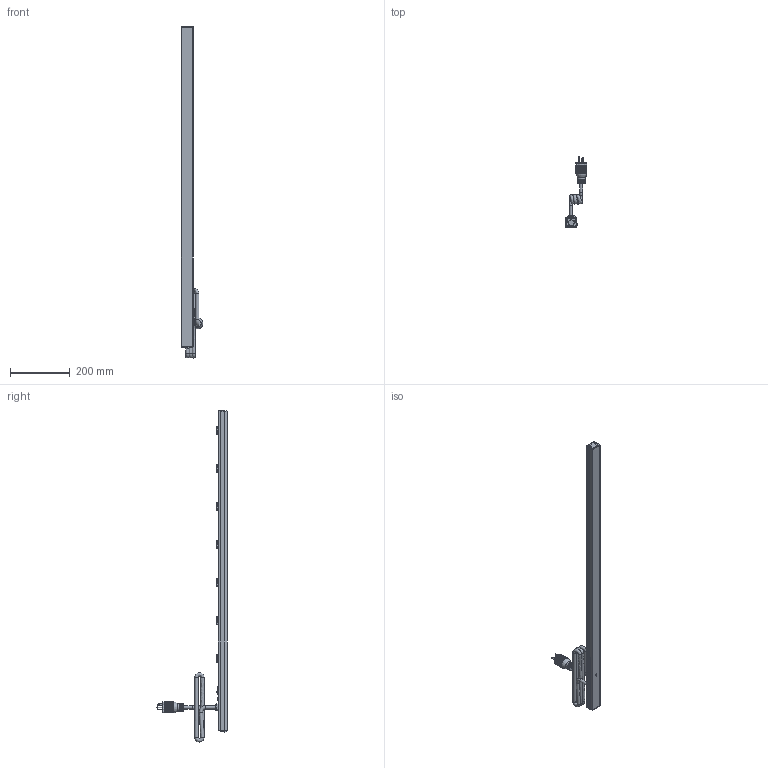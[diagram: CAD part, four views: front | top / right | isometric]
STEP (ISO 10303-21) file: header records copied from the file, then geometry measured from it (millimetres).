
FILE_DESCRIPTION((''),'2;1');
FILE_NAME('E:\Dutton\Manufacturing\drawings\Updated 2009\Vertical Rack Mount Strips\1589 Series\STEP''s\1589H42F1.stp','2010-01-21T08:20:40',('tfoster'),(''),'Autodesk Inventor 2010','Autodesk Inventor 2010','');
FILE_SCHEMA(('AUTOMOTIVE_DESIGN { 1 0 10303 214 1 1 1 1 }'));
Products named in the file (14): 1589H42F1; 42' - 7 Outlet top; 42' bottom; End Cap; End Cap w breaker; Reset Switch; #6 - 0.375 Type A screw; 20 amp Cored; toothwasher; round head 1-way 8-32 x 0.5 screw; Power Switch Assembly; Power Switch; Power Switch pt; 20 Amp Receptacle
Assembly tree (20 placements, depth 3):
  1589H42F1
    End Cap
    End Cap w breaker
    Reset Switch
    #6 - 0.375 Type A screw  x4
    20 amp Cored
    toothwasher
    round head 1-way 8-32 x 0.5 screw
    Power Switch Assembly
      Power Switch
      Power Switch pt
    20 Amp Receptacle  x7
  42' - 7 Outlet top
  42' bottom
Bounding box: 72.44 x 234.82 x 1111.14 mm (x, y, z)
Volume: 535952.9 mm3; surface area: 440108.7 mm2
Topology: 21 solids, 21 shells, 1226 faces, 3477 edges, 2286 vertices
Faces by surface type: plane 783, cylinder 266, bspline 103, sphere 34, cone 24, torus 16
Full cylindrical faces by diameter (mm): 1 x2, 1.803 x3, 1.905 x2, 3.175 x12, 3.2 x2, 4.3 x1, 4.826 x2, 7.849 x1, 11 x4, 12.5 x1, 19.05 x2, 22.606 x2, 25.146 x3
Entity records: 29242 total; most frequent: CARTESIAN_POINT 8991, ORIENTED_EDGE 4292, DIRECTION 3877, EDGE_CURVE 2146, VERTEX_POINT 1468, VECTOR 1299, LINE 1299, AXIS2_PLACEMENT_3D 1289
